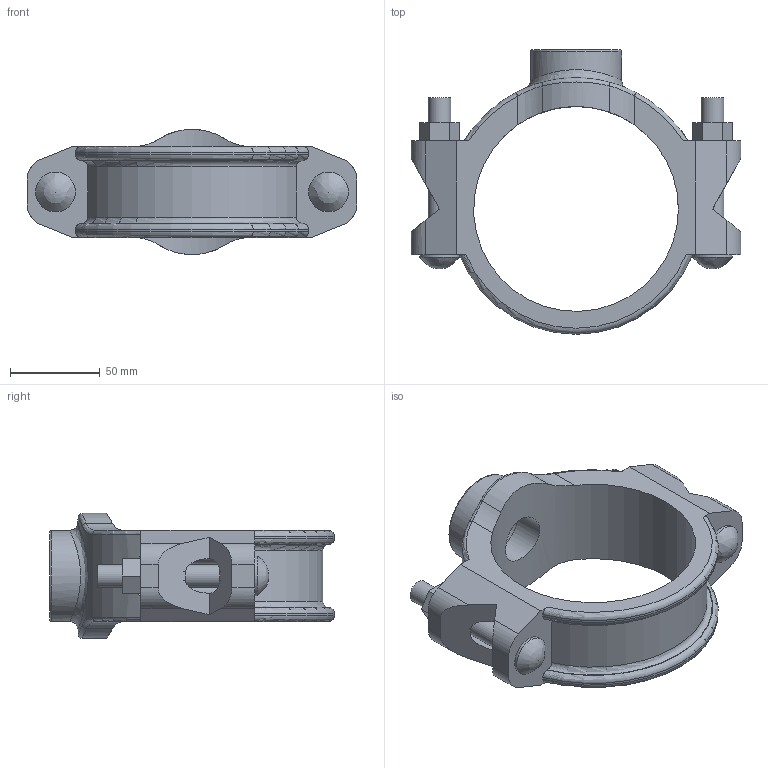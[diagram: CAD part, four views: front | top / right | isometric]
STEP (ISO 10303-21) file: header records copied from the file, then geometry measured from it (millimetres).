
FILE_DESCRIPTION(/* description */ ('VIC SS MECHANICAL T BRANCH OUTLET STYLE 422 (FPT)','CAx-IF Rec.Pracs.---Representation and Presentation of Product Manufacturing Information (PMI)---4.0---2014-10-13'),/* implementation_level */ '2;1');
FILE_NAME(/* name */ 'C:\Files for Export\422\STEP\Victaulic_SS-OGS_Mech-Tee Out_Style 422 (FPT)\Victaulic_SS-OGS_Mech-Tee Out_Style 422 (FPT)_04.0x01.0 (100x25).stp',/* time_stamp */ '2023-03-28T14:28:52+02:00',/* author */ ('jheald'),/* organization */ ('Victaulic'),/* preprocessor_version */ 'ST-DEVELOPER v18.1',/* originating_system */ 'Autodesk Inventor 2020',/* authorisation */ '');
FILE_SCHEMA (('AP242_MANAGED_MODEL_BASED_3D_ENGINEERING_MIM_LF { 1 0 10303 442 1 1 4 }'));
Length unit declared in the file: inch
Products named in the file (1): 422-04.0x01.0
Bounding box: 184.15 x 158.75 x 69.85 mm (x, y, z)
Volume: 373769.3 mm3; surface area: 80754.4 mm2
Topology: 1 solids, 1 shells, 102 faces, 296 edges, 196 vertices
Faces by surface type: plane 48, cylinder 34, torus 11, bspline 9
Full cylindrical faces by diameter (mm): 12.7 x4, 22.225 x2, 26.987 x1, 33.401 x1, 50.8 x1, 114.3 x1
Entity records: 4249 total; most frequent: CARTESIAN_POINT 1327, ORIENTED_EDGE 588, DIRECTION 572, EDGE_CURVE 294, AXIS2_PLACEMENT_3D 210, VERTEX_POINT 196, LINE 152, VECTOR 152
